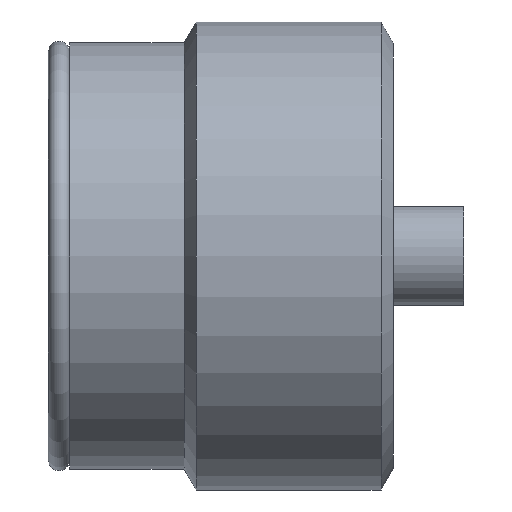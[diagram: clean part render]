
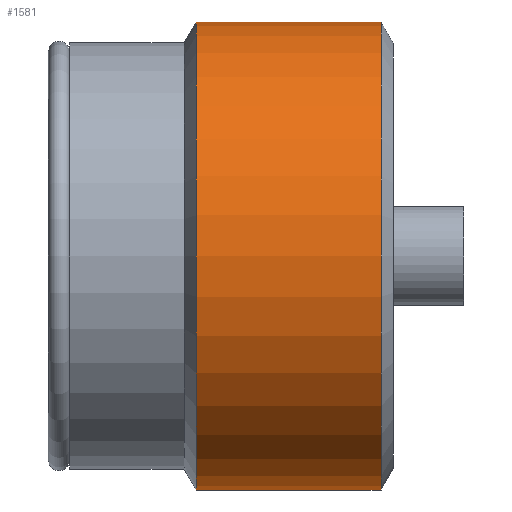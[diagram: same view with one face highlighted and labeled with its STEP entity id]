
A CAD part, front view. The second image highlights one B-rep face of the part: STEP entity #1581.
In plain terms, the highlighted cylindrical face has radius 16.625 mm (diameter 33.25 mm), a partial arc.
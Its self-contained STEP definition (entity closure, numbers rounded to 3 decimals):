
#54 = DIRECTION ( 'NONE',  ( 0., 0., -1. ) ) ;
#160 = DIRECTION ( 'NONE',  ( 1., 0., 0. ) ) ;
#226 = DIRECTION ( 'NONE',  ( 0., 0., -1. ) ) ;
#299 = VERTEX_POINT ( 'NONE', #528 ) ;
#305 = VECTOR ( 'NONE', #328, 1000. ) ;
#328 = DIRECTION ( 'NONE',  ( 1., 0., 0. ) ) ;
#378 = CARTESIAN_POINT ( 'NONE',  ( 0., 0., 0. ) ) ;
#396 = ORIENTED_EDGE ( 'NONE', *, *, #592, .F. ) ;
#422 = ORIENTED_EDGE ( 'NONE', *, *, #734, .T. ) ;
#522 = ORIENTED_EDGE ( 'NONE', *, *, #635, .T. ) ;
#528 = CARTESIAN_POINT ( 'NONE',  ( -0.866, 0., 16.625 ) ) ;
#542 = DIRECTION ( 'NONE',  ( 1., 0., 0. ) ) ;
#578 = DIRECTION ( 'NONE',  ( -1., 0., 0. ) ) ;
#592 = EDGE_CURVE ( 'NONE', #1634, #299, #1181, .T. ) ;
#635 = EDGE_CURVE ( 'NONE', #822, #1942, #1131, .T. ) ;
#693 = EDGE_CURVE ( 'NONE', #1634, #822, #1773, .T. ) ;
#734 = EDGE_CURVE ( 'NONE', #1942, #299, #1725, .T. ) ;
#774 = EDGE_LOOP ( 'NONE', ( #396, #1913, #522, #422 ) ) ;
#822 = VERTEX_POINT ( 'NONE', #849 ) ;
#828 = CYLINDRICAL_SURFACE ( 'NONE', #1957, 16.625 ) ;
#845 = CARTESIAN_POINT ( 'NONE',  ( -14., 0., 16.625 ) ) ;
#849 = CARTESIAN_POINT ( 'NONE',  ( -14., 0., -16.625 ) ) ;
#977 = DIRECTION ( 'NONE',  ( 1., 0., 0. ) ) ;
#1076 = AXIS2_PLACEMENT_3D ( 'NONE', #1900, #977, #54 ) ;
#1131 = LINE ( 'NONE', #1265, #305 ) ;
#1181 = LINE ( 'NONE', #1411, #1953 ) ;
#1265 = CARTESIAN_POINT ( 'NONE',  ( 0., 0., -16.625 ) ) ;
#1411 = CARTESIAN_POINT ( 'NONE',  ( 0., 0., 16.625 ) ) ;
#1511 = CARTESIAN_POINT ( 'NONE',  ( -0.866, 0., 0. ) ) ;
#1581 = ADVANCED_FACE ( 'NONE', ( #1843 ), #828, .T. ) ;
#1607 = AXIS2_PLACEMENT_3D ( 'NONE', #1511, #578, #1667 ) ;
#1634 = VERTEX_POINT ( 'NONE', #845 ) ;
#1667 = DIRECTION ( 'NONE',  ( 0., 0., -1. ) ) ;
#1725 = CIRCLE ( 'NONE', #1607, 16.625 ) ;
#1773 = CIRCLE ( 'NONE', #1076, 16.625 ) ;
#1843 = FACE_OUTER_BOUND ( 'NONE', #774, .T. ) ;
#1877 = CARTESIAN_POINT ( 'NONE',  ( -0.866, 0., -16.625 ) ) ;
#1900 = CARTESIAN_POINT ( 'NONE',  ( -14., 0., 0. ) ) ;
#1913 = ORIENTED_EDGE ( 'NONE', *, *, #693, .T. ) ;
#1942 = VERTEX_POINT ( 'NONE', #1877 ) ;
#1953 = VECTOR ( 'NONE', #160, 1000. ) ;
#1957 = AXIS2_PLACEMENT_3D ( 'NONE', #378, #542, #226 ) ;
